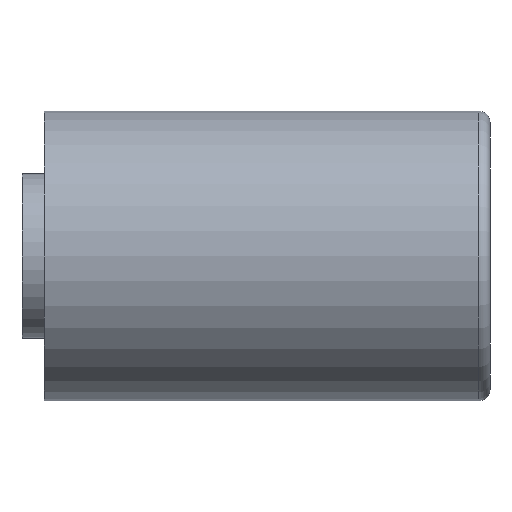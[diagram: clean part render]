
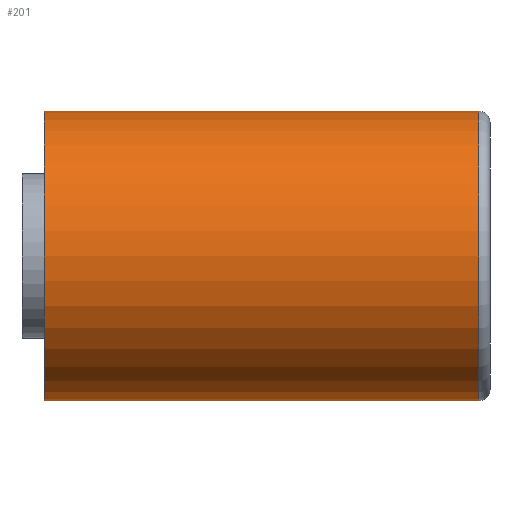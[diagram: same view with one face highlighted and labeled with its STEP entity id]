
A CAD part, front view. The second image highlights one B-rep face of the part: STEP entity #201.
In plain terms, the highlighted cylindrical face has radius 1.3 mm (diameter 2.6 mm), a full revolution.
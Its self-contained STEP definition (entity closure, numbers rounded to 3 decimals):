
#201 = ADVANCED_FACE( '', ( #475, #476 ), #477, .T. );
#475 = FACE_OUTER_BOUND( '', #960, .T. );
#476 = FACE_OUTER_BOUND( '', #961, .T. );
#477 = CYLINDRICAL_SURFACE( '', #962, 1.3 );
#960 = EDGE_LOOP( '', ( #1742 ) );
#961 = EDGE_LOOP( '', ( #1743 ) );
#962 = AXIS2_PLACEMENT_3D( '', #1744, #1745, #1746 );
#1742 = ORIENTED_EDGE( '', *, *, #3250, .T. );
#1743 = ORIENTED_EDGE( '', *, *, #3356, .F. );
#1744 = CARTESIAN_POINT( '', ( 3.507, 0., 0. ) );
#1745 = DIRECTION( '', ( -1., 0., 0. ) );
#1746 = DIRECTION( '', ( 0., 0., -1. ) );
#3250 = EDGE_CURVE( '', #3911, #3911, #3912, .T. );
#3356 = EDGE_CURVE( '', #4099, #4099, #4100, .T. );
#3911 = VERTEX_POINT( '', #4902 );
#3912 = CIRCLE( '', #4903, 1.3 );
#4099 = VERTEX_POINT( '', #5171 );
#4100 = CIRCLE( '', #5172, 1.3 );
#4902 = CARTESIAN_POINT( '', ( -0.493, 0., -1.3 ) );
#4903 = AXIS2_PLACEMENT_3D( '', #6156, #6157, #6158 );
#5171 = CARTESIAN_POINT( '', ( 3.407, 0., -1.3 ) );
#5172 = AXIS2_PLACEMENT_3D( '', #6312, #6313, #6314 );
#6156 = CARTESIAN_POINT( '', ( -0.493, 0., 0. ) );
#6157 = DIRECTION( '', ( 1., 0., 0. ) );
#6158 = DIRECTION( '', ( 0., 0., -1. ) );
#6312 = CARTESIAN_POINT( '', ( 3.407, 0., 0. ) );
#6313 = DIRECTION( '', ( 1., 0., 0. ) );
#6314 = DIRECTION( '', ( 0., 0., -1. ) );
